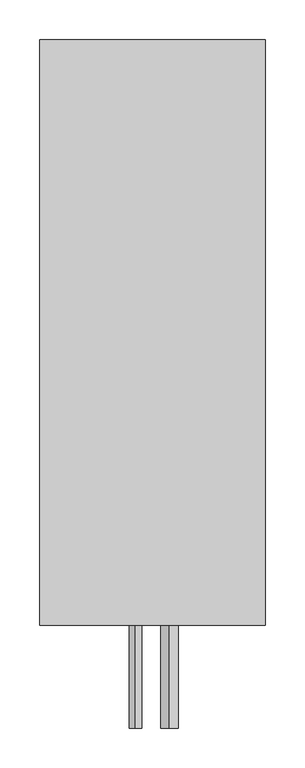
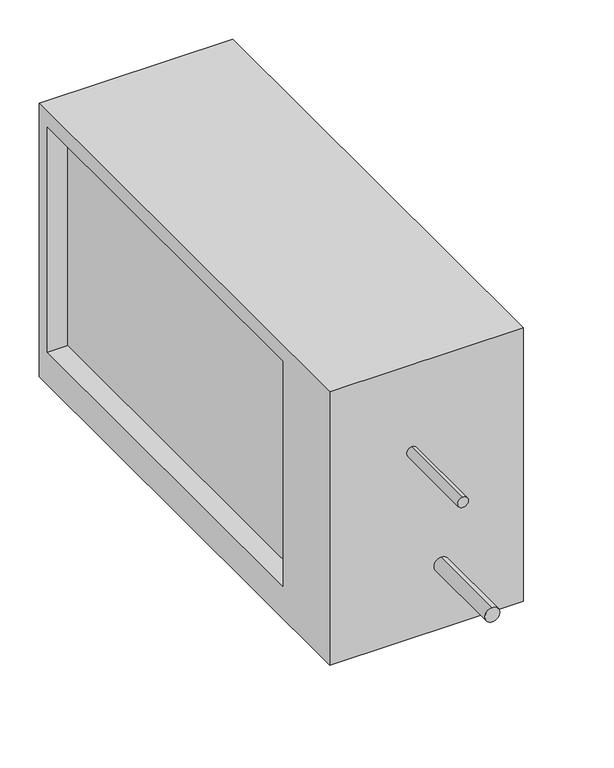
"""IFC4 building model written with IfcOpenShell, lengths in millimetres: proxy geometry, СВ_ВоздухоохладительФреоновый_КанальныйПрямоугольный_200-1000_SPC-F : SPC-F-600x350-R."""

from ifc_helpers import new_model, si_unit, point, frame, frame_2d, origin, place, context, project, spatial, polyline, circle_curve, trimmed, segment, composite_curve, outline, extrude, source, transform, mapped, element, save


def mechanical_equipment_03cc3c5d(model_context):
    return source(origin(), model_context, "Body", "SweptSolid", [
        extrude(outline(polyline([(-420.0, -225.0), (-420.0, 200.0), (320.0, 200.0), (320.0, -225.0), (-420.0, -225.0)]), holes=[polyline([(-300.0, 175.0), (-300.0, -175.0), (300.0, -175.0), (300.0, 175.0), (-300.0, 175.0)])]), frame((-142.5, 0.0, 0.0), z_axis=(1.0, 0.0, 0.0), x_axis=(0.0, 1.0, 0.0)), (0.0, 0.0, 1.0), 285.0),
        extrude(outline(composite_curve([segment(trimmed(circle_curve(frame_2d((-125.0, 21.5)), 11.1), [point((-113.9, 21.5))], [point((-136.1, 21.5))], False, "CARTESIAN"), True, "CONTINUOUS"), segment(trimmed(circle_curve(frame_2d((-125.0, 21.5)), 11.1), [point((-136.1, 21.5))], [point((-113.9, 21.5))], False, "CARTESIAN"), True, "CONTINUOUS")], self_intersect=False)), frame((0.0, -550.0, 0.0), z_axis=(0.0, 1.0, 0.0), x_axis=(0.0, 0.0, 1.0)), (0.0, 0.0, 1.0), 130.0),
        extrude(outline(composite_curve([segment(trimmed(circle_curve(frame_2d((65.0, -21.5)), 7.95), [point((72.95, -21.5))], [point((57.05, -21.5))], False, "CARTESIAN"), True, "CONTINUOUS"), segment(trimmed(circle_curve(frame_2d((65.0, -21.5)), 7.95), [point((57.05, -21.5))], [point((72.95, -21.5))], False, "CARTESIAN"), True, "CONTINUOUS")], self_intersect=False)), frame((0.0, -550.0, 0.0), z_axis=(0.0, 1.0, 0.0), x_axis=(0.0, 0.0, 1.0)), (0.0, 0.0, 1.0), 130.0),
        extrude(outline(composite_curve([segment(trimmed(circle_curve(frame_2d((0.0, -380.0)), 11.0), [point((-11.0, -380.0))], [point((11.0, -380.0))], False, "CARTESIAN"), True, "CONTINUOUS"), segment(trimmed(circle_curve(frame_2d((0.0, -380.0)), 11.0), [point((11.0, -380.0))], [point((-11.0, -380.0))], False, "CARTESIAN"), True, "CONTINUOUS")], self_intersect=False)), frame((0.0, 0.0, -245.0), z_axis=(0.0, 0.0, 1.0), x_axis=(1.0, 0.0, 0.0)), (0.0, 0.0, 1.0), 20.0),
        extrude(outline(polyline([(112.5, 300.0), (112.5, -300.0), (-112.5, -300.0), (-112.5, 300.0), (112.5, 300.0)])), frame((0.0, 0.0, -175.0), z_axis=(0.0, 0.0, 1.0), x_axis=(1.0, 0.0, 0.0)), (0.0, 0.0, 1.0), 350.0),
    ])


if __name__ == "__main__":
    model = new_model("IFC4")
    model_context = context("Model", 3, world=origin())
    ifc_project = project(units=[si_unit("LENGTHUNIT", "METRE", prefix="MILLI")], contexts=[model_context])
    site = spatial("IfcSite", under=ifc_project)
    building = spatial("IfcBuilding", under=site)
    placement = place(None, origin())
    mechanical_equipment_shape = mechanical_equipment_03cc3c5d(model_context)
    element("IfcBuildingElementProxy", 1, Name="СВ_ВоздухоохладительФреоновый_КанальныйПрямоугольный_200-1000_SPC-F : SPC-F-600x350-R", ObjectType="СВ_ВоздухоохладительФреоновый_КанальныйПрямоугольный_200-1000_SPC-F : SPC-F-600x350-R", at=placement, inside=building, context=model_context, shape_type="MappedRepresentation", body=[
        mapped(mechanical_equipment_shape, transform((0.0, 0.0, 0.0), x_axis=(1.0, 0.0, 0.0), y_axis=(0.0, 1.0, 0.0), z_axis=(0.0, 0.0, 1.0))),
    ])
    save(model, "model.ifc")
